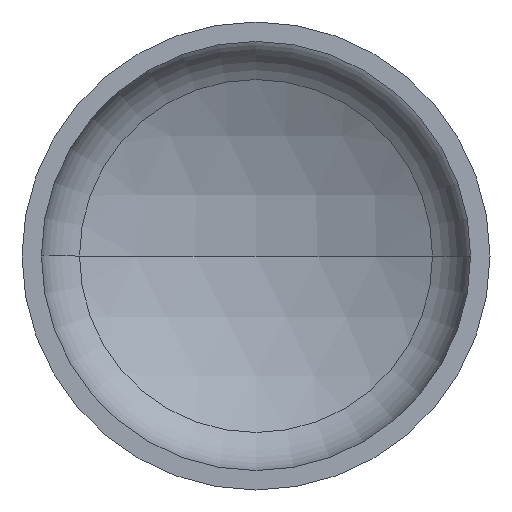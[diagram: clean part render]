
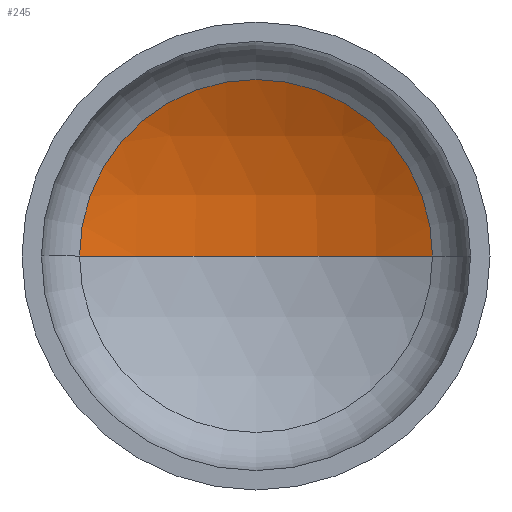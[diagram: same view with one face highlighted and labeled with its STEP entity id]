
A CAD part, front view. The second image highlights one B-rep face of the part: STEP entity #245.
In plain terms, the highlighted spherical face has radius 2080 mm.
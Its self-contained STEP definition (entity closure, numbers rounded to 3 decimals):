
#2 = ORIENTED_EDGE ( 'NONE', *, *, #117, .F. ) ;
#26 = AXIS2_PLACEMENT_3D ( 'NONE', #60, #49, #173 ) ;
#27 = DIRECTION ( 'NONE',  ( 1., 0., 0. ) ) ;
#33 = DIRECTION ( 'NONE',  ( 0., 0., 1. ) ) ;
#37 = VERTEX_POINT ( 'NONE', #260 ) ;
#38 = AXIS2_PLACEMENT_3D ( 'NONE', #192, #194, #195 ) ;
#40 = EDGE_LOOP ( 'NONE', ( #2, #147, #124 ) ) ;
#42 = AXIS2_PLACEMENT_3D ( 'NONE', #222, #33, #27 ) ;
#44 = AXIS2_PLACEMENT_3D ( 'NONE', #307, #306, #304 ) ;
#49 = DIRECTION ( 'NONE',  ( 0., 0., -1. ) ) ;
#60 = CARTESIAN_POINT ( 'NONE',  ( 0., -1406.599, 0. ) ) ;
#87 = EDGE_CURVE ( 'NONE', #113, #136, #219, .T. ) ;
#100 = EDGE_CURVE ( 'NONE', #37, #113, #331, .T. ) ;
#113 = VERTEX_POINT ( 'NONE', #228 ) ;
#117 = EDGE_CURVE ( 'NONE', #37, #136, #152, .T. ) ;
#124 = ORIENTED_EDGE ( 'NONE', *, *, #87, .T. ) ;
#136 = VERTEX_POINT ( 'NONE', #381 ) ;
#147 = ORIENTED_EDGE ( 'NONE', *, *, #100, .T. ) ;
#152 = CIRCLE ( 'NONE', #42, 2080. ) ;
#173 = DIRECTION ( 'NONE',  ( -1., 0., 0. ) ) ;
#192 = CARTESIAN_POINT ( 'NONE',  ( 0., -1406.599, 0. ) ) ;
#194 = DIRECTION ( 'NONE',  ( 0., 0., -1. ) ) ;
#195 = DIRECTION ( 'NONE',  ( -1., 0., 0. ) ) ;
#207 = FACE_OUTER_BOUND ( 'NONE', #40, .T. ) ;
#219 = CIRCLE ( 'NONE', #44, 980.571 ) ;
#222 = CARTESIAN_POINT ( 'NONE',  ( 0., -1406.599, 0. ) ) ;
#228 = CARTESIAN_POINT ( 'NONE',  ( 980.571, 427.762, 0. ) ) ;
#245 = ADVANCED_FACE ( 'NONE', ( #207 ), #320, .F. ) ;
#260 = CARTESIAN_POINT ( 'NONE',  ( 0., 673.401, 0. ) ) ;
#304 = DIRECTION ( 'NONE',  ( 1., 0., 0. ) ) ;
#306 = DIRECTION ( 'NONE',  ( 0., -1., 0. ) ) ;
#307 = CARTESIAN_POINT ( 'NONE',  ( 0., 427.762, 0. ) ) ;
#320 = SPHERICAL_SURFACE ( 'NONE', #26, 2080. ) ;
#331 = CIRCLE ( 'NONE', #38, 2080. ) ;
#381 = CARTESIAN_POINT ( 'NONE',  ( -980.571, 427.762, 0. ) ) ;
